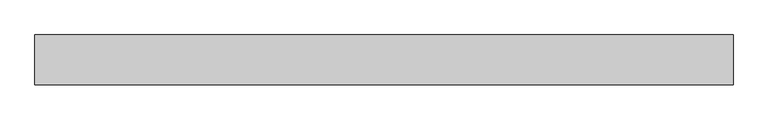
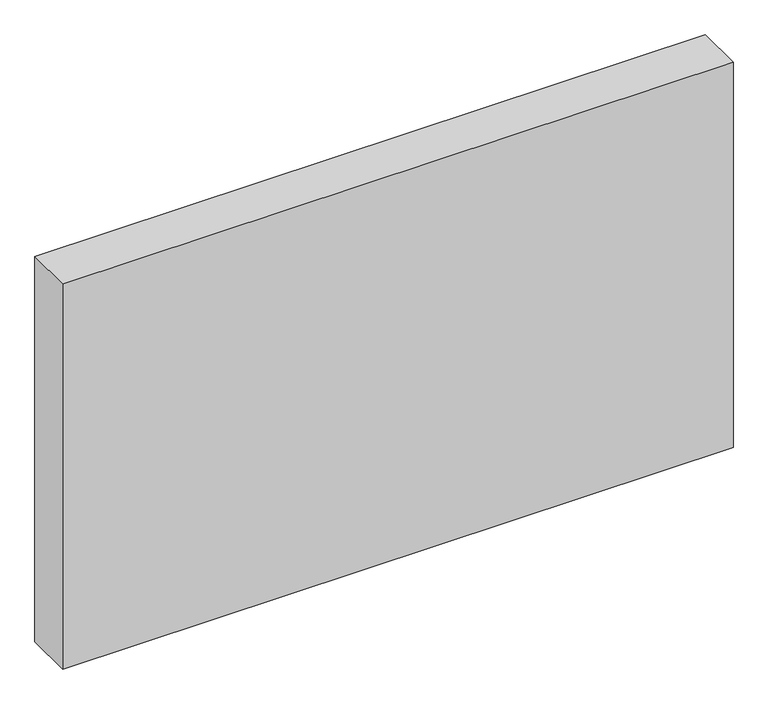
"""IFC4 building model written with IfcOpenShell, lengths in millimetres: proxy geometry."""

from ifc_helpers import new_model, si_unit, origin, origin_with_axes, place, context, project, spatial, polyline, outline, extrude, source, transform, mapped, element, save


def generic_models_367a1f48(model_context):
    return source(origin(), model_context, "Body", "SweptSolid", [
        extrude(outline(polyline([(-2799.6474112, 0.0), (0.0, 0.0), (0.0, -200.0), (-2799.6474112, -200.0), (-2799.6474112, 0.0)])), origin_with_axes(), (0.0, 0.0, 1.0), 1700.0),
    ])


if __name__ == "__main__":
    model = new_model("IFC4")
    model_context = context("Model", 3, world=origin())
    ifc_project = project(units=[si_unit("LENGTHUNIT", "METRE", prefix="MILLI")], contexts=[model_context])
    site = spatial("IfcSite", under=ifc_project)
    building = spatial("IfcBuilding", under=site)
    placement = place(None, origin())
    generic_models_shape = generic_models_367a1f48(model_context)
    element("IfcBuildingElementProxy", 1, Name="Generic Models", at=placement, inside=building, context=model_context, shape_type="MappedRepresentation", body=[
        mapped(generic_models_shape, transform((0.0, 0.0, 0.0), x_axis=(1.0, 0.0, 0.0), y_axis=(0.0, 1.0, 0.0), z_axis=(0.0, 0.0, 1.0))),
    ])
    save(model, "model.ifc")
